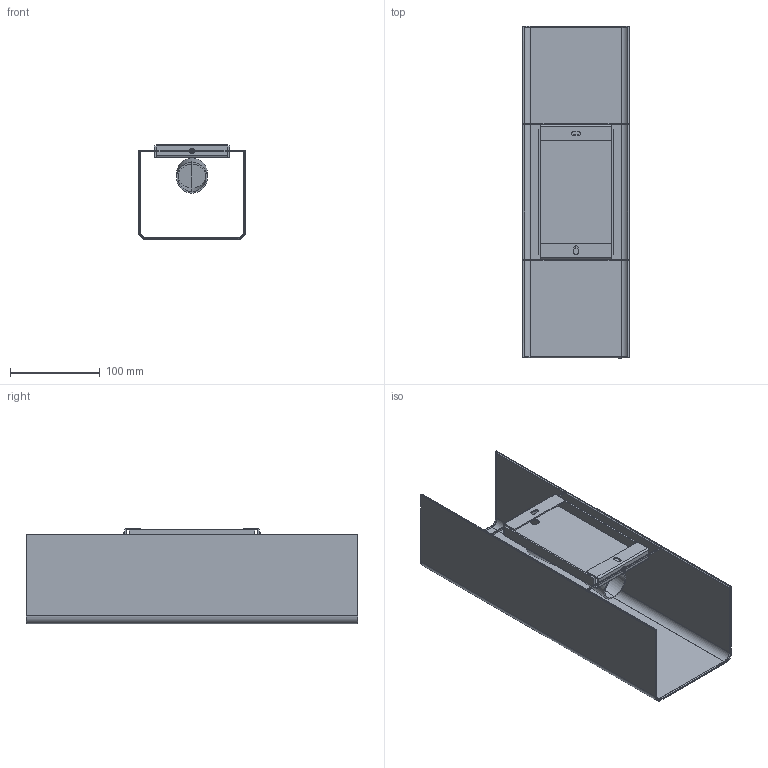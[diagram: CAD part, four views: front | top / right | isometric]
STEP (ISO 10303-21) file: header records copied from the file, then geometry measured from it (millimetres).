
FILE_DESCRIPTION(/* description */ (''),/* implementation_level */ '2;1');
FILE_NAME(/* name */ '66401-99.step',/* time_stamp */ '2024-06-20T11:38:00+02:00',/* author */ ('RenataManzini'),/* organization */ (''),/* preprocessor_version */ 'ST-DEVELOPER v20',/* originating_system */ 'AutoCAD Mechanical',/* authorisation */ '');
FILE_SCHEMA (('AUTOMOTIVE_DESIGN { 1 0 10303 214 3 1 1 }'));
Length unit declared in the file: millimetre
Products named in the file (3): Product; base_2L - BASE-479125-_3D_; pantalla_66401-99 - PANTALLA-479124-_3D_
Assembly tree (2 placements, depth 2):
  Product
    base_2L - BASE-479125-_3D_
    pantalla_66401-99 - PANTALLA-479124-_3D_
Bounding box: 120 x 370 x 106.64 mm (x, y, z)
Volume: 153886.1 mm3; surface area: 302790.4 mm2
Topology: 9 solids, 11 shells, 178 faces, 457 edges, 297 vertices
Faces by surface type: plane 96, cylinder 74, torus 8
Entity records: 6250 total; most frequent: CARTESIAN_POINT 1770, DIRECTION 932, ORIENTED_EDGE 900, EDGE_CURVE 454, AXIS2_PLACEMENT_3D 324, VERTEX_POINT 292, LINE 284, VECTOR 284
